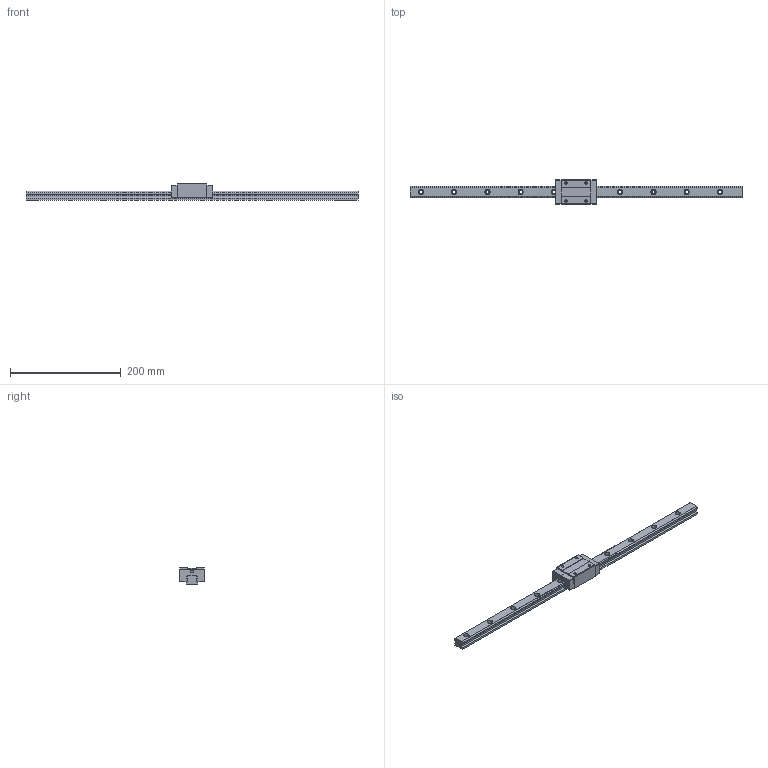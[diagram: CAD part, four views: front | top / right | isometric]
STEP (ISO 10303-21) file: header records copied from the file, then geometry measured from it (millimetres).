
FILE_DESCRIPTION(/* description */ (''),/* implementation_level */ '2;1');
FILE_NAME(/* name */ 'TRH20VN-XN.stp',/* time_stamp */ '2017-10-25T15:06:19+08:00',/* author */ (''),/* organization */ (''),/* preprocessor_version */ 'ST-DEVELOPER v11',/* originating_system */ 'SIEMENS UGS NX 6.0',/* authorisation */ '');
FILE_SCHEMA (('AUTOMOTIVE_DESIGN { 1 0 10303 214 1 1 1 1 }'));
Length unit declared in the file: millimetre
Products named in the file (1): TRH20VN-XN
Bounding box: 600 x 44 x 30 mm (x, y, z)
Volume: 232621 mm3; surface area: 63766 mm2
Topology: 2 solids, 2 shells, 130 faces, 332 edges, 218 vertices
Faces by surface type: plane 76, cylinder 46, cone 8
Full cylindrical faces by diameter (mm): 4.3 x4, 5 x2, 6 x10, 9.5 x10
Entity records: 4218 total; most frequent: DIRECTION 638, CARTESIAN_POINT 615, ORIENTED_EDGE 560, EDGE_CURVE 280, AXIS2_PLACEMENT_3D 227, VERTEX_POINT 204, EDGE_LOOP 196, LINE 184
